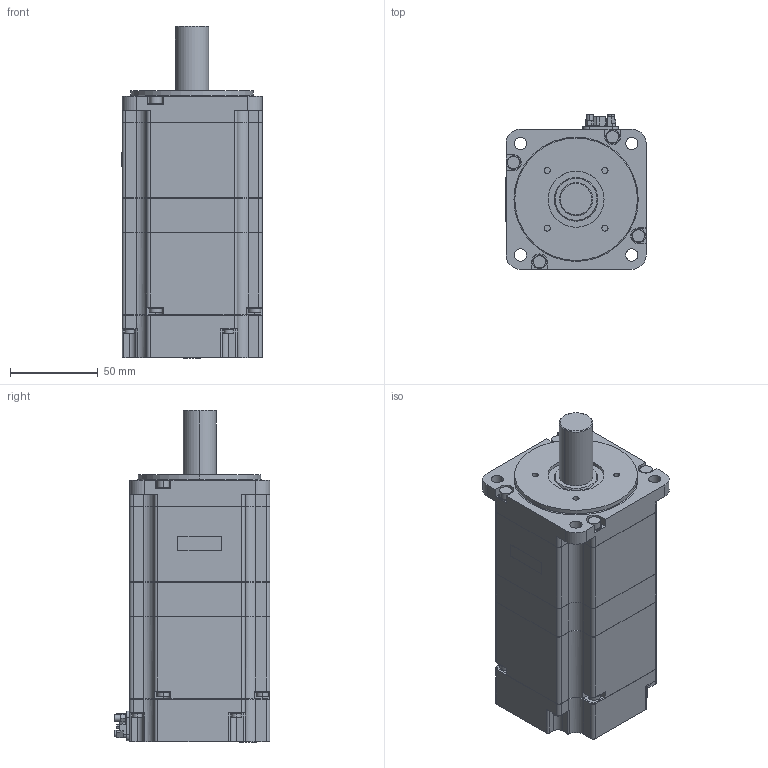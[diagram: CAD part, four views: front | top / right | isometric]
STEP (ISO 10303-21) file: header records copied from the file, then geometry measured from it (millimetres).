
FILE_DESCRIPTION (( 'STEP AP214' ), '1' );
FILE_NAME ('sgmxj_08awa2ca_.STEP', '2021-07-13T02:43:10', ( '' ), ( '' ), 'SwSTEP 2.0', 'SolidWorks 2016', '' );
FILE_SCHEMA (( 'AUTOMOTIVE_DESIGN' ));
Length unit declared in the file: millimetre
Products named in the file (1): sgmxj_08awa2ca_
Bounding box: 80.1 x 88.8 x 189.6 mm (x, y, z)
Volume: 862253.5 mm3; surface area: 67023 mm2
Topology: 1 solids, 1 shells, 528 faces, 1402 edges, 930 vertices
Faces by surface type: plane 297, cylinder 225, cone 4, torus 2
Entity records: 22346 total; most frequent: DIRECTION 2934, CARTESIAN_POINT 2861, ORIENTED_EDGE 2804, EDGE_CURVE 1402, AXIS2_PLACEMENT_3D 1003, VERTEX_POINT 930, LINE 928, VECTOR 928
